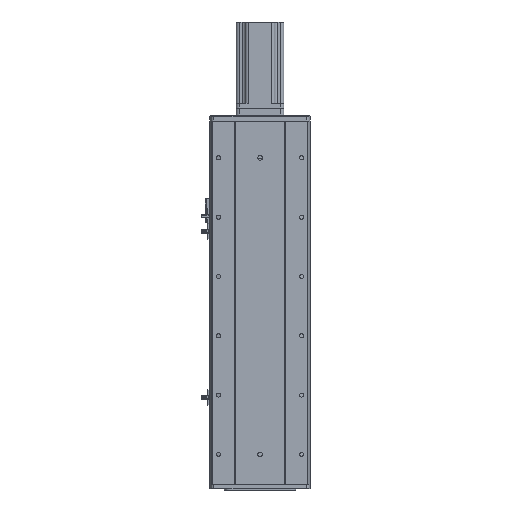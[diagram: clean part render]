
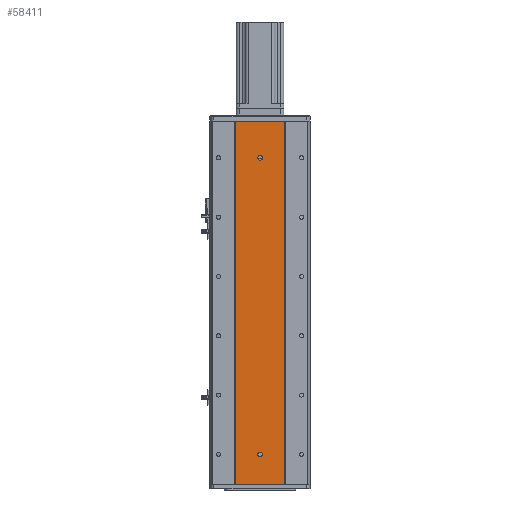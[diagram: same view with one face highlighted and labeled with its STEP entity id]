
A CAD part, front view. The second image highlights one B-rep face of the part: STEP entity #58411.
In plain terms, the highlighted planar face has unit normal (0, -1, 0).
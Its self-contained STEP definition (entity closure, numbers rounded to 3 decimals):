
#3200 = AXIS2_PLACEMENT_3D ( 'NONE', #24235, #24200, #24227 ) ;
#3210 = AXIS2_PLACEMENT_3D ( 'NONE', #23988, #24019, #23989 ) ;
#3494 = VERTEX_POINT ( 'NONE', #18718 ) ;
#6497 = EDGE_LOOP ( 'NONE', ( #48406, #48437 ) ) ;
#6509 = EDGE_LOOP ( 'NONE', ( #48426, #48398 ) ) ;
#6521 = EDGE_LOOP ( 'NONE', ( #48385, #48412, #48382, #48381 ) ) ;
#18718 = CARTESIAN_POINT ( 'NONE',  ( 5085.384, 335.574, 0. ) ) ;
#20030 = CARTESIAN_POINT ( 'NONE',  ( 5168.555, 335.574, 612. ) ) ;
#20088 = CARTESIAN_POINT ( 'NONE',  ( 5085.384, 335.574, 612. ) ) ;
#21086 = CARTESIAN_POINT ( 'NONE',  ( 5126.969, 335.574, 546. ) ) ;
#21087 = CARTESIAN_POINT ( 'NONE',  ( 5126.969, 335.574, 54. ) ) ;
#21165 = CARTESIAN_POINT ( 'NONE',  ( 5126.969, 335.574, 554. ) ) ;
#21172 = CARTESIAN_POINT ( 'NONE',  ( 5126.969, 335.574, 46. ) ) ;
#22861 = CIRCLE ( 'NONE', #3210, 4. ) ;
#22992 = CIRCLE ( 'NONE', #3200, 4. ) ;
#23988 = CARTESIAN_POINT ( 'NONE',  ( 5126.969, 335.574, 50. ) ) ;
#23989 = DIRECTION ( 'NONE',  ( -1., 0., 0. ) ) ;
#24019 = DIRECTION ( 'NONE',  ( 0., 1., 0. ) ) ;
#24200 = DIRECTION ( 'NONE',  ( 0., 1., 0. ) ) ;
#24227 = DIRECTION ( 'NONE',  ( -1., 0., 0. ) ) ;
#24235 = CARTESIAN_POINT ( 'NONE',  ( 5126.969, 335.574, 550. ) ) ;
#26330 = AXIS2_PLACEMENT_3D ( 'NONE', #30258, #30272, #30249 ) ;
#26331 = AXIS2_PLACEMENT_3D ( 'NONE', #30267, #30245, #30260 ) ;
#27279 = AXIS2_PLACEMENT_3D ( 'NONE', #41995, #41962, #41974 ) ;
#28246 = CARTESIAN_POINT ( 'NONE',  ( 5085.384, 335.574, 612. ) ) ;
#28252 = DIRECTION ( 'NONE',  ( 1., 0., 0. ) ) ;
#28550 = CARTESIAN_POINT ( 'NONE',  ( 5085.384, 335.574, 0. ) ) ;
#28583 = DIRECTION ( 'NONE',  ( 1., 0., 0. ) ) ;
#28832 = VERTEX_POINT ( 'NONE', #20030 ) ;
#28859 = VERTEX_POINT ( 'NONE', #20088 ) ;
#29008 = LINE ( 'NONE', #28246, #29012 ) ;
#29012 = VECTOR ( 'NONE', #28252, 1000. ) ;
#29145 = LINE ( 'NONE', #28550, #29146 ) ;
#29146 = VECTOR ( 'NONE', #28583, 1000. ) ;
#29361 = LINE ( 'NONE', #30214, #29389 ) ;
#29362 = CIRCLE ( 'NONE', #26331, 4. ) ;
#29375 = CIRCLE ( 'NONE', #26330, 4. ) ;
#29389 = VECTOR ( 'NONE', #30219, 1000. ) ;
#29424 = VECTOR ( 'NONE', #30312, 1000. ) ;
#29429 = LINE ( 'NONE', #30283, #29424 ) ;
#30214 = CARTESIAN_POINT ( 'NONE',  ( 5085.384, 335.574, 612. ) ) ;
#30219 = DIRECTION ( 'NONE',  ( 0., 0., -1. ) ) ;
#30245 = DIRECTION ( 'NONE',  ( 0., 1., 0. ) ) ;
#30249 = DIRECTION ( 'NONE',  ( -1., 0., 0. ) ) ;
#30258 = CARTESIAN_POINT ( 'NONE',  ( 5126.969, 335.574, 50. ) ) ;
#30260 = DIRECTION ( 'NONE',  ( -1., 0., 0. ) ) ;
#30267 = CARTESIAN_POINT ( 'NONE',  ( 5126.969, 335.574, 550. ) ) ;
#30272 = DIRECTION ( 'NONE',  ( 0., 1., 0. ) ) ;
#30283 = CARTESIAN_POINT ( 'NONE',  ( 5168.555, 335.574, 612. ) ) ;
#30312 = DIRECTION ( 'NONE',  ( 0., 0., -1. ) ) ;
#39362 = FACE_BOUND ( 'NONE', #6509, .T. ) ;
#39373 = FACE_BOUND ( 'NONE', #6497, .T. ) ;
#39387 = FACE_OUTER_BOUND ( 'NONE', #6521, .T. ) ;
#41347 = VERTEX_POINT ( 'NONE', #21086 ) ;
#41349 = VERTEX_POINT ( 'NONE', #21087 ) ;
#41452 = VERTEX_POINT ( 'NONE', #21172 ) ;
#41463 = VERTEX_POINT ( 'NONE', #21165 ) ;
#41952 = PLANE ( 'NONE',  #27279 ) ;
#41962 = DIRECTION ( 'NONE',  ( 0., 1., 0. ) ) ;
#41974 = DIRECTION ( 'NONE',  ( -1., 0., 0. ) ) ;
#41995 = CARTESIAN_POINT ( 'NONE',  ( 5085.384, 335.574, 612. ) ) ;
#42618 = EDGE_CURVE ( 'NONE', #41452, #41349, #22861, .T. ) ;
#42768 = EDGE_CURVE ( 'NONE', #41347, #41463, #22992, .T. ) ;
#43369 = EDGE_CURVE ( 'NONE', #28859, #28832, #29008, .T. ) ;
#43491 = EDGE_CURVE ( 'NONE', #3494, #61236, #29145, .T. ) ;
#43619 = EDGE_CURVE ( 'NONE', #28859, #3494, #29361, .T. ) ;
#43624 = EDGE_CURVE ( 'NONE', #41349, #41452, #29375, .T. ) ;
#43627 = EDGE_CURVE ( 'NONE', #41463, #41347, #29362, .T. ) ;
#43650 = EDGE_CURVE ( 'NONE', #28832, #61236, #29429, .T. ) ;
#48381 = ORIENTED_EDGE ( 'NONE', *, *, #43619, .T. ) ;
#48382 = ORIENTED_EDGE ( 'NONE', *, *, #43369, .F. ) ;
#48385 = ORIENTED_EDGE ( 'NONE', *, *, #43491, .T. ) ;
#48398 = ORIENTED_EDGE ( 'NONE', *, *, #43627, .T. ) ;
#48406 = ORIENTED_EDGE ( 'NONE', *, *, #42618, .T. ) ;
#48412 = ORIENTED_EDGE ( 'NONE', *, *, #43650, .F. ) ;
#48426 = ORIENTED_EDGE ( 'NONE', *, *, #42768, .T. ) ;
#48437 = ORIENTED_EDGE ( 'NONE', *, *, #43624, .T. ) ;
#58411 = ADVANCED_FACE ( 'NONE', ( #39362, #39373, #39387 ), #41952, .F. ) ;
#61236 = VERTEX_POINT ( 'NONE', #63496 ) ;
#63496 = CARTESIAN_POINT ( 'NONE',  ( 5168.555, 335.574, 0. ) ) ;
